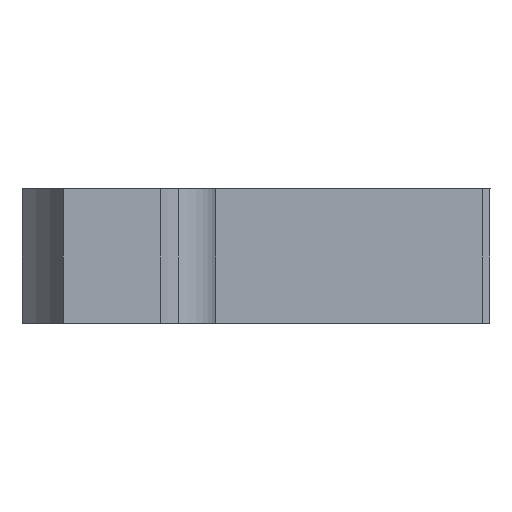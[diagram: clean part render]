
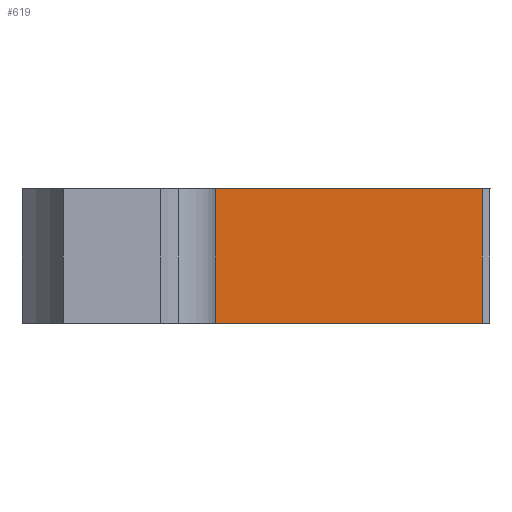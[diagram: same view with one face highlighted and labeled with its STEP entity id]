
A CAD part, left-side view. The second image highlights one B-rep face of the part: STEP entity #619.
In plain terms, the highlighted planar face has unit normal (-1, 0, 0).
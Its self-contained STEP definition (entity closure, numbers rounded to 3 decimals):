
#60=PLANE('',#691);
#90=FACE_OUTER_BOUND('',#135,.T.);
#135=EDGE_LOOP('',(#516,#517,#518,#519));
#166=LINE('',#997,#214);
#184=LINE('',#1214,#232);
#185=LINE('',#1217,#233);
#186=LINE('',#1218,#234);
#214=VECTOR('',#768,10.);
#232=VECTOR('',#826,10.);
#233=VECTOR('',#829,10.);
#234=VECTOR('',#830,10.);
#301=VERTEX_POINT('',#994);
#302=VERTEX_POINT('',#996);
#321=VERTEX_POINT('',#1212);
#322=VERTEX_POINT('',#1216);
#362=EDGE_CURVE('',#301,#302,#166,.T.);
#394=EDGE_CURVE('',#321,#302,#184,.T.);
#395=EDGE_CURVE('',#322,#321,#185,.T.);
#396=EDGE_CURVE('',#322,#301,#186,.T.);
#516=ORIENTED_EDGE('',*,*,#395,.T.);
#517=ORIENTED_EDGE('',*,*,#394,.T.);
#518=ORIENTED_EDGE('',*,*,#362,.F.);
#519=ORIENTED_EDGE('',*,*,#396,.F.);
#619=ADVANCED_FACE('',(#90),#60,.T.);
#691=AXIS2_PLACEMENT_3D('',#1215,#827,#828);
#768=DIRECTION('',(0.,-1.,0.));
#826=DIRECTION('',(0.,0.,1.));
#827=DIRECTION('center_axis',(-1.,0.,0.));
#828=DIRECTION('ref_axis',(0.,-1.,0.));
#829=DIRECTION('',(0.,-1.,0.));
#830=DIRECTION('',(0.,0.,1.));
#994=CARTESIAN_POINT('',(-19.103,1.7,-12.212));
#996=CARTESIAN_POINT('',(-19.103,-12.15,-12.212));
#997=CARTESIAN_POINT('',(-19.103,1.7,-12.212));
#1212=CARTESIAN_POINT('',(-19.103,-12.15,-19.212));
#1214=CARTESIAN_POINT('',(-19.103,-12.15,-19.212));
#1215=CARTESIAN_POINT('Origin',(-19.103,1.7,-19.212));
#1216=CARTESIAN_POINT('',(-19.103,1.7,-19.212));
#1217=CARTESIAN_POINT('',(-19.103,1.7,-19.212));
#1218=CARTESIAN_POINT('',(-19.103,1.7,-19.212));
